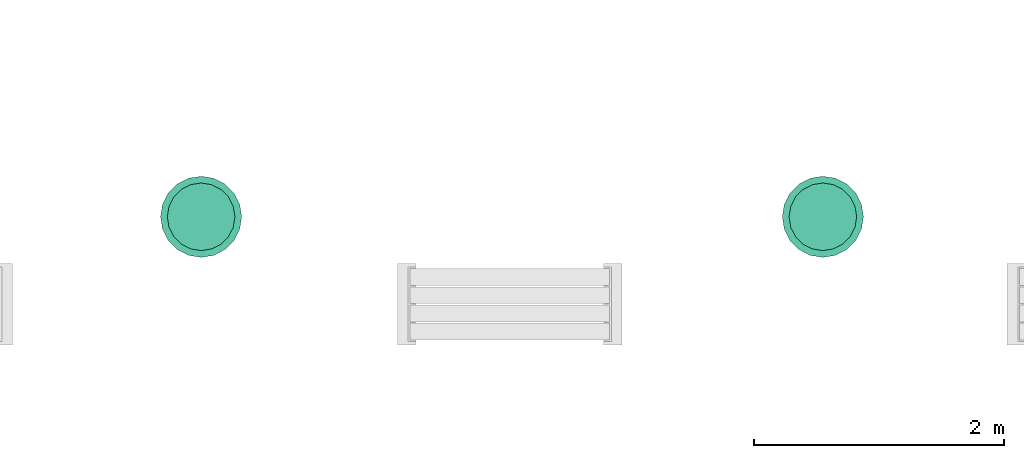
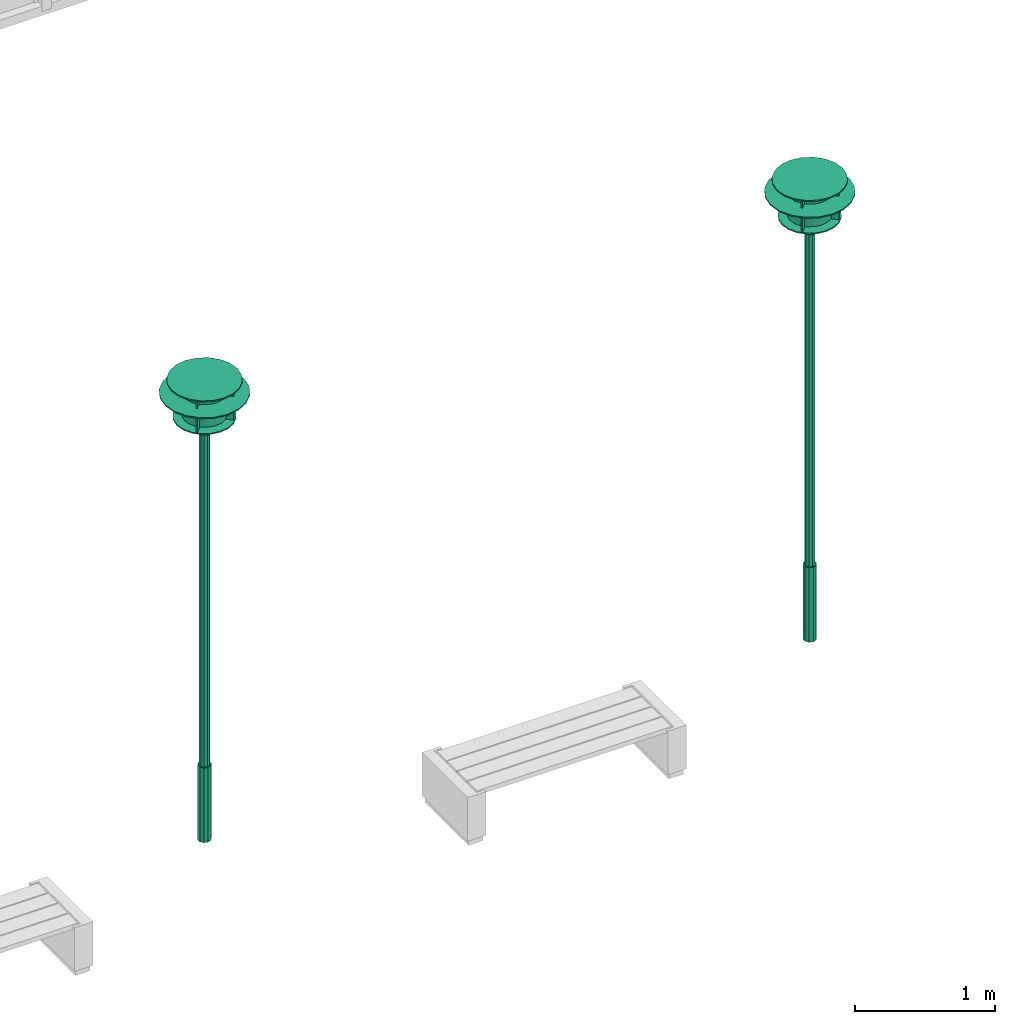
# One storey, part 3 of 8: 2 flow terminals.
"""IFC2X3 building model written with IfcOpenShell, lengths in millimetres."""

from ifc_helpers import new_model, entity, si_unit, converted_unit, derived_unit, direction, frame, frame_2d, origin, origin_2d_with_axis, place, context, subcontext, project, spatial, polyline, rectangle, outline, extrude, source, transform, mapped, material, material_list, type_object, type_shapes, element, save


model = new_model("IFC2X3")

# Units and contexts
model_context = context("Model", 3, precision=0.01, world=origin(), true_north=direction((6.12303176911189e-17, 1.0)))
body_context = subcontext(model_context, "Body", "Model", "MODEL_VIEW")
ifc_project = project(units=[si_unit("LENGTHUNIT", "METRE", prefix="MILLI"), si_unit("AREAUNIT", "SQUARE_METRE"), si_unit("VOLUMEUNIT", "CUBIC_METRE"), converted_unit("PLANEANGLEUNIT", "DEGREE", entity("IfcRatioMeasure", 0.0174532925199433), si_unit("PLANEANGLEUNIT", "RADIAN"), dimensions=[0, 0, 0, 0, 0, 0, 0]), si_unit("MASSUNIT", "GRAM", prefix="KILO"), derived_unit("MASSDENSITYUNIT", [(si_unit("MASSUNIT", "GRAM", prefix="KILO"), 1), (si_unit("LENGTHUNIT", "METRE"), -3)]), si_unit("TIMEUNIT", "SECOND"), si_unit("FREQUENCYUNIT", "HERTZ"), si_unit("THERMODYNAMICTEMPERATUREUNIT", "DEGREE_CELSIUS"), derived_unit("THERMALTRANSMITTANCEUNIT", [(si_unit("MASSUNIT", "GRAM", prefix="KILO"), 1), (si_unit("THERMODYNAMICTEMPERATUREUNIT", "KELVIN"), -1), (si_unit("TIMEUNIT", "SECOND"), -3)]), derived_unit("VOLUMETRICFLOWRATEUNIT", [(si_unit("LENGTHUNIT", "METRE"), 3), (si_unit("TIMEUNIT", "SECOND"), -1)]), si_unit("ELECTRICCURRENTUNIT", "AMPERE"), si_unit("ELECTRICVOLTAGEUNIT", "VOLT"), si_unit("POWERUNIT", "WATT"), si_unit("FORCEUNIT", "NEWTON", prefix="KILO"), si_unit("ILLUMINANCEUNIT", "LUX"), si_unit("LUMINOUSFLUXUNIT", "LUMEN"), si_unit("LUMINOUSINTENSITYUNIT", "CANDELA"), derived_unit("USERDEFINED", [(si_unit("MASSUNIT", "GRAM", prefix="KILO"), -1), (si_unit("LENGTHUNIT", "METRE"), -2), (si_unit("TIMEUNIT", "SECOND"), 3), (si_unit("LUMINOUSFLUXUNIT", "LUMEN"), 1)]), derived_unit("LINEARVELOCITYUNIT", [(si_unit("LENGTHUNIT", "METRE"), 1), (si_unit("TIMEUNIT", "SECOND"), -1)]), si_unit("PRESSUREUNIT", "PASCAL"), derived_unit("USERDEFINED", [(si_unit("LENGTHUNIT", "METRE"), -2), (si_unit("MASSUNIT", "GRAM", prefix="KILO"), 1), (si_unit("TIMEUNIT", "SECOND"), -2)])], contexts=[model_context])

# Site, building, storey
site_placement = place(None, origin())
site = spatial("IfcSite", under=ifc_project, at=site_placement, Name="Default", CompositionType="ELEMENT")
building_placement = place(site_placement, origin())
building = spatial("IfcBuilding", under=site, at=building_placement, CompositionType="ELEMENT")
storey_placement = place(building_placement, origin())
storey = spatial("IfcBuildingStorey", under=building, at=storey_placement, Name="Ground Floor", CompositionType="ELEMENT", Elevation=0.0)

# Flow terminals
ifc_material_1 = material(Name="Metal - Stainless Steel")
ifc_material_2 = material(Name="Glass - Satin")
ifc_material_list_1 = material_list([ifc_material_1, ifc_material_2])
ifc_material_list_2 = material_list([ifc_material_1, ifc_material_2])
light_fixture_type_1 = type_object("IfcLightFixtureType", Name="LI - 001", PredefinedType="NOTDEFINED", material=ifc_material_list_2)
shared_shape_1 = source(origin(), body_context, "Body", "SweptSolid", [
    extrude(outline(polyline([(-50.8412011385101, -320.998710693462), (50.841201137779, -320.998710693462), (147.546912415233, -289.57712036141), (229.809703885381, -229.809703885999), (289.577120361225, -147.546912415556), (320.998710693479, -50.8412011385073), (320.998710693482, 50.8412011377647), (289.577120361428, 147.546912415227), (229.809703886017, 229.809703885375), (147.546912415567, 289.577120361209), (50.8412011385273, 320.998710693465), (-50.8412011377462, 320.998710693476), (-147.546912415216, 289.577120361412), (-229.809703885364, 229.809703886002), (-289.577120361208, 147.546912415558), (-320.998710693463, 50.8412011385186), (-320.998710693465, -50.841201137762), (-289.577120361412, -147.546912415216), (-229.809703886, -229.809703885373), (-147.54691241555, -289.577120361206), (-50.8412011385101, -320.998710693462)]), holes=[polyline([(73.7734562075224, -144.78856018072), (25.4206005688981, -160.49935534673), (-25.4206005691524, -160.499355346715), (-73.7734562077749, -144.788560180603), (-114.904851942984, -114.904851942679), (-144.788560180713, -73.7734562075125), (-160.499355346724, -25.4206005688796), (-160.499355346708, 25.4206005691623), (-144.788560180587, 73.7734562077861), (-114.904851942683, 114.904851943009), (-73.7734562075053, 144.788560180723), (-25.4206005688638, 160.499355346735), (25.4206005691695, 160.499355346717), (73.7734562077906, 144.788560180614), (114.904851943, 114.904851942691), (144.78856018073, 73.7734562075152), (160.499355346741, 25.4206005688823), (160.499355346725, -25.4206005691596), (144.788560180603, -73.7734562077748), (114.904851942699, -114.904851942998), (73.7734562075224, -144.78856018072)])]), frame((90845.8677731, 57660.3691672, 3881.66666667), z_axis=(0.0, 0.0, 1.0), x_axis=(0.98768834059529, -0.15643446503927, 0.0)), (0.0, 0.0, 1.0), 9.99999999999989),
    extrude(outline(polyline([(-42.3676676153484, -267.498925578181), (42.3676676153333, -267.498925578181), (122.955760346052, -241.314266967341), (191.508086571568, -191.508086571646), (241.314266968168, -122.955760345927), (267.498925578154, -42.3676676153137), (267.49892557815, 42.3676676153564), (241.314266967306, 122.955760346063), (191.508086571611, 191.508086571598), (122.955760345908, 241.314266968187), (42.3676676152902, 267.498925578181), (-42.3676676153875, 267.498925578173), (-122.95576034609, 241.314266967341), (-191.508086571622, 191.508086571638), (-241.314266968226, 122.955760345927), (-267.498925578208, 42.3676676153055), (-267.498925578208, -42.3676676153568), (-241.314266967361, -122.955760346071), (-191.508086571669, -191.508086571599), (-122.955760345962, -241.314266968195), (-42.3676676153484, -267.498925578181)])), frame((90845.8677731, 57660.3691672, 3990.0), z_axis=(0.0, 0.0, 1.0), x_axis=(0.891006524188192, -0.453990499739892, 0.0)), (0.0, 0.0, 1.0), 9.99999999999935),
    extrude(outline(polyline([(-14.0791018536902, -88.8919506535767), (14.0791018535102, -88.8919506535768), (40.8591449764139, -80.1905871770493), (63.6396103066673, -63.639610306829), (80.1905871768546, -40.8591449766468), (88.8919506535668, -14.0791018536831), (88.8919506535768, 14.0791018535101), (80.1905871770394, 40.859144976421), (63.6396103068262, 63.6396103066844), (40.8591449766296, 80.1905871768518), (14.0791018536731, 88.891950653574), (-14.0791018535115, 88.8919506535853), (-40.859144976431, 80.1905871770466), (-63.6396103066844, 63.6396103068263), (-80.1905871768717, 40.8591449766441), (-88.8919506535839, 14.0791018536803), (-88.8919506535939, -14.0791018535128), (-80.1905871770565, -40.8591449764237), (-63.6396103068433, -63.6396103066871), (-40.8591449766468, -80.1905871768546), (-14.0791018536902, -88.8919506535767)]), holes=[polyline([(18.1596199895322, -35.6402609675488), (6.25737860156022, -39.5075336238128), (-6.25737860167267, -39.5075336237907), (-18.1596199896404, -35.6402609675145), (-28.2842712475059, -28.2842712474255), (-35.640260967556, -18.1596199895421), (-39.5075336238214, -6.25737860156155), (-39.5075336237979, 6.25737860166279), (-35.6402609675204, 18.159619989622), (-28.2842712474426, 28.2842712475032), (-18.1596199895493, 35.6402609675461), (-6.25737860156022, 39.5075336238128), (6.25737860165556, 39.507533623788), (18.159619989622, 35.6402609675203), (28.2842712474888, 28.2842712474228), (35.6402609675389, 18.1596199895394), (39.5075336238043, 6.25737860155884), (39.5075336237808, -6.2573786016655), (35.6402609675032, -18.1596199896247), (28.2842712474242, -28.2842712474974), (18.1596199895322, -35.6402609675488)])]), frame((90845.8677731, 57660.3691672, 3575.0), z_axis=(0.0, 0.0, 1.0), x_axis=(0.987688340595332, -0.156434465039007, 0.0)), (0.0, 0.0, 1.0), 9.99999999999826),
    extrude(outline(polyline([(-14.0791018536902, -88.8919506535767), (14.0791018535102, -88.8919506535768), (40.8591449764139, -80.1905871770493), (63.6396103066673, -63.639610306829), (80.1905871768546, -40.8591449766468), (88.8919506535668, -14.0791018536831), (88.8919506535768, 14.0791018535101), (80.1905871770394, 40.859144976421), (63.6396103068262, 63.6396103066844), (40.8591449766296, 80.1905871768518), (14.0791018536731, 88.891950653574), (-14.0791018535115, 88.8919506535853), (-40.859144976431, 80.1905871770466), (-63.6396103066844, 63.6396103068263), (-80.1905871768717, 40.8591449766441), (-88.8919506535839, 14.0791018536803), (-88.8919506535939, -14.0791018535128), (-80.1905871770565, -40.8591449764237), (-63.6396103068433, -63.6396103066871), (-40.8591449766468, -80.1905871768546), (-14.0791018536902, -88.8919506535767)]), holes=[polyline([(18.1596199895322, -35.6402609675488), (6.25737860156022, -39.5075336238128), (-6.25737860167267, -39.5075336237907), (-18.1596199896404, -35.6402609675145), (-28.2842712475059, -28.2842712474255), (-35.640260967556, -18.1596199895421), (-39.5075336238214, -6.25737860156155), (-39.5075336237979, 6.25737860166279), (-35.6402609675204, 18.159619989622), (-28.2842712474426, 28.2842712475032), (-18.1596199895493, 35.6402609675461), (-6.25737860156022, 39.5075336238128), (6.25737860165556, 39.507533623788), (18.159619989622, 35.6402609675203), (28.2842712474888, 28.2842712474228), (35.6402609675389, 18.1596199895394), (39.5075336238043, 6.25737860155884), (39.5075336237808, -6.2573786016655), (35.6402609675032, -18.1596199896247), (28.2842712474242, -28.2842712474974), (18.1596199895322, -35.6402609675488)])]), frame((90845.8677731, 57660.3691672, 3625.0), z_axis=(0.0, 0.0, 1.0), x_axis=(0.987688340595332, -0.156434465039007, 0.0)), (0.0, 0.0, 1.0), 9.99999999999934),
    extrude(outline(polyline([(-35.5888407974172, -224.699097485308), (35.5888407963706, -224.699097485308), (103.28283869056, -202.703984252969), (160.866792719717, -160.866792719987), (202.703984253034, -103.28283869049), (224.699097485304, -35.5888407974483), (224.699097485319, 35.5888407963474), (202.703984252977, 103.282838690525), (160.866792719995, 160.866792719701), (103.282838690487, 202.703984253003), (35.5888407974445, 224.699097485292), (-35.5888407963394, 224.699097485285), (-103.282838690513, 202.703984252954), (-160.866792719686, 160.866792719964), (-202.703984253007, 103.282838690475), (-224.699097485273, 35.5888407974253), (-224.699097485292, -35.5888407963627), (-202.703984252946, -103.282838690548), (-160.866792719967, -160.866792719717), (-103.282838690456, -202.703984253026), (-35.5888407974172, -224.699097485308)])), frame((90845.8677731, 57660.3691672, 3675.0), z_axis=(0.0, 0.0, 1.0), x_axis=(0.891006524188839, -0.453990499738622, 0.0)), (0.0, 0.0, 1.0), 10.0000000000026),
    extrude(outline(polyline([(-25.4206005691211, -160.499355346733), (25.4206005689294, -160.499355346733), (73.7734562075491, -144.788560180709), (114.904851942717, -114.904851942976), (144.788560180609, -73.7734562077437), (160.499355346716, -25.4206005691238), (160.499355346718, 25.4206005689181), (144.788560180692, 73.7734562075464), (114.90485194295, 114.904851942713), (73.7734562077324, 144.788560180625), (25.4206005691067, 160.499355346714), (-25.4206005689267, 160.499355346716), (-73.7734562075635, 144.78856018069), (-114.904851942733, 114.904851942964), (-144.788560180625, 73.7734562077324), (-160.499355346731, 25.420600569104), (-160.499355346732, -25.420600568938), (-144.788560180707, -73.7734562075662), (-114.904851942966, -114.904851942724), (-73.7734562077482, -144.788560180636), (-25.4206005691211, -160.499355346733)])), frame((90845.8677731, 57660.3691672, 3695.0), z_axis=(0.0, 0.0, 1.0), x_axis=(0.987688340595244, -0.156434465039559, 0.0)), (0.0, 0.0, 1.0), 284.999999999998),
    extrude(rectangle(XDim=10.0000000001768, YDim=54.1666666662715, at=origin_2d_with_axis()), frame((90711.8121125, 57526.3135066, 3891.66666667), z_axis=(0.0, 0.0, 1.0), x_axis=(-0.707106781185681, 0.707106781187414, 0.0)), (0.0, 0.0, 1.0), 98.3333333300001),
    extrude(rectangle(XDim=10.0000000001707, YDim=54.1666666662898, at=frame_2d((1.22506449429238e-11, -1.22515331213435e-11), x_axis=(1.0, 0.0))), frame((90711.8121125, 57794.4248278, 3891.66666667), z_axis=(0.0, 0.0, 1.0), x_axis=(0.707106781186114, 0.707106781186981, 0.0)), (0.0, 0.0, 1.0), 98.3333333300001),
    extrude(rectangle(XDim=10.0000000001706, YDim=54.1666666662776, at=frame_2d((1.83759674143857e-11, 6.12487838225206e-12), x_axis=(1.0, 0.0))), frame((90979.9234337, 57794.4248278, 3891.66666667), z_axis=(0.0, 0.0, 1.0), x_axis=(0.707106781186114, -0.707106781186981, 0.0)), (0.0, 0.0, 1.0), 98.3333333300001),
    extrude(rectangle(XDim=10.0000000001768, YDim=54.166666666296, at=frame_2d((1.22519772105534e-11, -1.22497567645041e-11), x_axis=(1.0, 0.0))), frame((90979.9234337, 57526.3135066, 3891.66666667), z_axis=(0.0, 0.0, 1.0), x_axis=(-0.707106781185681, -0.707106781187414, 0.0)), (0.0, 0.0, 1.0), 98.3333333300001),
    extrude(rectangle(XDim=10.0000000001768, YDim=54.1666666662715, at=origin_2d_with_axis()), frame((90711.8121125, 57526.3135066, 3685.0), z_axis=(0.0, 0.0, 1.0), x_axis=(-0.707106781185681, 0.707106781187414, 0.0)), (0.0, 0.0, 1.0), 196.66666667),
    extrude(rectangle(XDim=10.0000000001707, YDim=54.1666666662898, at=frame_2d((1.22506449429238e-11, -1.22515331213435e-11), x_axis=(1.0, 0.0))), frame((90711.8121125, 57794.4248278, 3685.0), z_axis=(0.0, 0.0, 1.0), x_axis=(0.707106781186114, 0.707106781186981, 0.0)), (0.0, 0.0, 1.0), 196.66666667),
    extrude(rectangle(XDim=10.0000000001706, YDim=54.1666666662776, at=frame_2d((1.83759674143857e-11, 6.12487838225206e-12), x_axis=(1.0, 0.0))), frame((90979.9234337, 57794.4248278, 3685.0), z_axis=(0.0, 0.0, 1.0), x_axis=(0.707106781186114, -0.707106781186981, 0.0)), (0.0, 0.0, 1.0), 196.66666667),
    extrude(rectangle(XDim=10.0000000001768, YDim=54.166666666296, at=frame_2d((1.22519772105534e-11, -1.22497567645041e-11), x_axis=(1.0, 0.0))), frame((90979.9234337, 57526.3135066, 3685.0), z_axis=(0.0, 0.0, 1.0), x_axis=(-0.707106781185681, -0.707106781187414, 0.0)), (0.0, 0.0, 1.0), 196.66666667),
    extrude(outline(polyline([(-12.3606797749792, -38.0422606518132), (12.3606797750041, -38.0422606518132), (32.3606797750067, -23.5114100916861), (40.0, 0.0), (32.360679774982, 23.5114100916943), (12.360679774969, 38.0422606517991), (-12.3606797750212, 38.0422606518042), (-32.3606797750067, 23.5114100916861), (-40.0, 0.0), (-32.3606797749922, -23.5114100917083), (-12.3606797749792, -38.0422606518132)])), frame((90845.8677731, 57660.3691672, 3350.0), z_axis=(0.0, 0.0, 1.0), x_axis=(0.58778525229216, -0.809016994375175, 0.0)), (0.0, 0.0, 1.0), 325.0),
    extrude(outline(polyline([(-12.3606797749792, -38.0422606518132), (12.3606797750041, -38.0422606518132), (32.3606797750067, -23.5114100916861), (40.0, 0.0), (32.360679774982, 23.5114100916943), (12.360679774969, 38.0422606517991), (-12.3606797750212, 38.0422606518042), (-32.3606797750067, 23.5114100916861), (-40.0, 0.0), (-32.3606797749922, -23.5114100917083), (-12.3606797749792, -38.0422606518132)])), frame((90845.8677731, 57660.3691672, 650.0), z_axis=(0.0, 0.0, 1.0), x_axis=(0.58778525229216, -0.809016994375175, 0.0)), (0.0, 0.0, 1.0), 2700.0),
    extrude(outline(polyline([(-15.4508497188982, -47.5528258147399), (15.4508497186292, -47.5528258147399), (40.4508497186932, -29.3892626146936), (50.0, 0.0), (40.4508497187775, 29.3892626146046), (15.450849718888, 47.5528258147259), (-15.4508497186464, 47.552825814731), (-40.4508497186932, 29.3892626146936), (-50.0, 0.0), (-40.4508497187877, -29.3892626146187), (-15.4508497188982, -47.5528258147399)])), frame((90845.8677731, 57660.3691672, 0.0), z_axis=(0.0, 0.0, 1.0), x_axis=(0.587785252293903, -0.809016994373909, 0.0)), (0.0, 0.0, 1.0), 650.0),
])
type_shapes(light_fixture_type_1, [shared_shape_1])
flow_terminal_1_placement = place(storey_placement, origin())
element("IfcFlowTerminal", 1, at=flow_terminal_1_placement, inside=storey, type_object=light_fixture_type_1, material=ifc_material_list_1, Name="LI - 001 1770043:LI - 001 1770043", ObjectType="LI - 001 1770043:LI - 001 1770043", context=body_context, shape_type="MappedRepresentation", body=[
    mapped(shared_shape_1, transform((0.0, 0.0, 0.0), scale=1.0)),
])
ifc_material_list_3 = material_list([ifc_material_1, ifc_material_2])
ifc_material_list_4 = material_list([ifc_material_1, ifc_material_2])
light_fixture_type_2 = type_object("IfcLightFixtureType", Name="LI - 001", PredefinedType="NOTDEFINED", material=ifc_material_list_4)
shared_shape_2 = source(origin(), body_context, "Body", "SweptSolid", [
    extrude(outline(polyline([(-50.8412011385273, -320.998710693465), (50.8412011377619, -320.998710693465), (147.546912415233, -289.57712036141), (229.809703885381, -229.809703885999), (289.577120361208, -147.546912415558), (320.998710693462, -50.8412011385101), (320.998710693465, 50.841201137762), (289.577120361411, 147.546912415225), (229.809703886, 229.809703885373), (147.546912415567, 289.577120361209), (50.8412011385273, 320.998710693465), (-50.8412011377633, 320.998710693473), (-147.546912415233, 289.57712036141), (-229.809703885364, 229.809703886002), (-289.577120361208, 147.546912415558), (-320.998710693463, 50.8412011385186), (-320.998710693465, -50.841201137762), (-289.577120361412, -147.546912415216), (-229.809703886, -229.809703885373), (-147.54691241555, -289.577120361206), (-50.8412011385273, -320.998710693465)]), holes=[polyline([(73.7734562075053, -144.788560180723), (25.420600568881, -160.499355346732), (-25.4206005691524, -160.499355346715), (-73.7734562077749, -144.788560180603), (-114.904851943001, -114.904851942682), (-144.78856018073, -73.7734562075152), (-160.499355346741, -25.4206005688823), (-160.499355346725, 25.4206005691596), (-144.788560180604, 73.7734562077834), (-114.904851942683, 114.904851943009), (-73.7734562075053, 144.788560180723), (-25.420600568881, 160.499355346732), (25.4206005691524, 160.499355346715), (73.7734562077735, 144.788560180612), (114.904851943, 114.904851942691), (144.78856018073, 73.7734562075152), (160.499355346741, 25.4206005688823), (160.499355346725, -25.4206005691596), (144.788560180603, -73.7734562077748), (114.904851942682, -114.904851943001), (73.7734562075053, -144.788560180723)])]), frame((85863.7107494, 57660.3691672, 3881.66666667), z_axis=(0.0, 0.0, 1.0), x_axis=(0.98768834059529, -0.15643446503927, 0.0)), (0.0, 0.0, 1.0), 9.99999999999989),
    extrude(outline(polyline([(-42.3676676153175, -267.498925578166), (42.3676676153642, -267.498925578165), (122.955760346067, -241.314266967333), (191.508086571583, -191.508086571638), (241.314266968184, -122.955760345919), (267.498925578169, -42.3676676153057), (267.498925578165, 42.3676676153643), (241.314266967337, 122.955760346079), (191.508086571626, 191.508086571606), (122.955760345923, 241.314266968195), (42.3676676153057, 267.498925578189), (-42.3676676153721, 267.498925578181), (-122.955760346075, 241.314266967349), (-191.508086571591, 191.508086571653), (-241.314266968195, 122.955760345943), (-267.498925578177, 42.3676676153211), (-267.498925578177, -42.3676676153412), (-241.31426696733, -122.955760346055), (-191.508086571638, -191.508086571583), (-122.955760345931, -241.31426696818), (-42.3676676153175, -267.498925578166)])), frame((85863.7107494, 57660.3691672, 3990.0), z_axis=(0.0, 0.0, 1.0), x_axis=(0.891006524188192, -0.453990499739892, 0.0)), (0.0, 0.0, 1.0), 9.99999999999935),
    extrude(outline(polyline([(-14.0791018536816, -88.8919506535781), (14.0791018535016, -88.8919506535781), (40.8591449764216, -80.1905871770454), (63.6396103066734, -63.6396103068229), (80.1905871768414, -40.8591449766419), (88.8919506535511, -14.0791018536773), (88.8919506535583, 14.0791018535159), (80.1905871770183, 40.859144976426), (63.639610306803, 63.6396103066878), (40.8591449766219, 80.1905871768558), (14.0791018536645, 88.8919506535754), (-14.0791018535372, 88.8919506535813), (-40.8591449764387, 80.1905871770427), (-63.6396103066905, 63.6396103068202), (-80.1905871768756, 40.8591449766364), (-88.8919506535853, 14.0791018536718), (-88.8919506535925, -14.0791018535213), (-80.1905871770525, -40.8591449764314), (-63.6396103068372, -63.6396103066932), (-40.859144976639, -80.1905871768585), (-14.0791018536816, -88.8919506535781)]), holes=[polyline([(18.1596199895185, -35.6402609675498), (6.25737860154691, -39.507533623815), (-6.25737860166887, -39.5075336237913), (-18.159619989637, -35.6402609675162), (-28.2842712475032, -28.2842712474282), (-35.6402609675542, -18.1596199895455), (-39.5075336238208, -6.25737860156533), (-39.5075336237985, 6.25737860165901), (-35.6402609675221, 18.1596199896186), (-28.2842712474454, 28.2842712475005), (-18.1596199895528, 35.6402609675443), (-6.25737860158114, 39.5075336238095), (6.25737860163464, 39.5075336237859), (18.1596199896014, 35.6402609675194), (28.2842712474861, 28.2842712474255), (35.6402609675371, 18.1596199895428), (39.5075336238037, 6.25737860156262), (39.5075336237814, -6.25737860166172), (35.640260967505, -18.1596199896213), (28.2842712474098, -28.2842712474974), (18.1596199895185, -35.6402609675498)])]), frame((85863.7107494, 57660.3691672, 3575.0), z_axis=(0.0, 0.0, 1.0), x_axis=(0.987688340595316, -0.156434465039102, 0.0)), (0.0, 0.0, 1.0), 9.99999999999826),
    extrude(outline(polyline([(-14.0791018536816, -88.8919506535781), (14.0791018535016, -88.8919506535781), (40.8591449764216, -80.1905871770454), (63.6396103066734, -63.6396103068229), (80.1905871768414, -40.8591449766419), (88.8919506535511, -14.0791018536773), (88.8919506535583, 14.0791018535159), (80.1905871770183, 40.859144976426), (63.639610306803, 63.6396103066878), (40.8591449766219, 80.1905871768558), (14.0791018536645, 88.8919506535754), (-14.0791018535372, 88.8919506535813), (-40.8591449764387, 80.1905871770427), (-63.6396103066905, 63.6396103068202), (-80.1905871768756, 40.8591449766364), (-88.8919506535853, 14.0791018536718), (-88.8919506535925, -14.0791018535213), (-80.1905871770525, -40.8591449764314), (-63.6396103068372, -63.6396103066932), (-40.859144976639, -80.1905871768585), (-14.0791018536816, -88.8919506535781)]), holes=[polyline([(18.1596199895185, -35.6402609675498), (6.25737860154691, -39.507533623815), (-6.25737860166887, -39.5075336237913), (-18.159619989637, -35.6402609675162), (-28.2842712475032, -28.2842712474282), (-35.6402609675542, -18.1596199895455), (-39.5075336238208, -6.25737860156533), (-39.5075336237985, 6.25737860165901), (-35.6402609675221, 18.1596199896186), (-28.2842712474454, 28.2842712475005), (-18.1596199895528, 35.6402609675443), (-6.25737860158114, 39.5075336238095), (6.25737860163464, 39.5075336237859), (18.1596199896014, 35.6402609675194), (28.2842712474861, 28.2842712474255), (35.6402609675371, 18.1596199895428), (39.5075336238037, 6.25737860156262), (39.5075336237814, -6.25737860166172), (35.640260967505, -18.1596199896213), (28.2842712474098, -28.2842712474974), (18.1596199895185, -35.6402609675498)])]), frame((85863.7107494, 57660.3691672, 3625.0), z_axis=(0.0, 0.0, 1.0), x_axis=(0.987688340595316, -0.156434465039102, 0.0)), (0.0, 0.0, 1.0), 9.99999999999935),
    extrude(outline(polyline([(-35.5888407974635, -224.699097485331), (35.5888407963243, -224.699097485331), (103.282838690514, -202.703984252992), (160.866792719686, -160.866792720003), (202.703984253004, -103.282838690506), (224.699097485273, -35.5888407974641), (224.699097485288, 35.5888407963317), (202.703984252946, 103.282838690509), (160.866792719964, 160.866792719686), (103.282838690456, 202.703984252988), (35.5888407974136, 224.699097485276), (-35.5888407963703, 224.699097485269), (-103.28283869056, 202.70398425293), (-160.866792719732, 160.86679271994), (-202.703984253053, 103.282838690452), (-224.699097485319, 35.5888407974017), (-224.699097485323, -35.5888407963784), (-202.703984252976, -103.282838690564), (-160.866792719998, -160.866792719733), (-103.282838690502, -202.70398425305), (-35.5888407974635, -224.699097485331)])), frame((85863.7107494, 57660.3691672, 3675.0), z_axis=(0.0, 0.0, 1.0), x_axis=(0.891006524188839, -0.453990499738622, 0.0)), (0.0, 0.0, 1.0), 10.0000000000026),
    extrude(outline(polyline([(-25.4206005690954, -160.499355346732), (25.4206005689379, -160.499355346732), (73.7734562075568, -144.788560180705), (114.904851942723, -114.90485194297), (144.78856018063, -73.7734562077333), (160.499355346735, -25.4206005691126), (160.499355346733, 25.4206005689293), (144.788560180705, 73.7734562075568), (114.904851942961, 114.904851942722), (73.7734562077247, 144.788560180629), (25.4206005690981, 160.499355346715), (-25.4206005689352, 160.499355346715), (-73.7734562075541, 144.788560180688), (-114.904851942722, 114.904851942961), (-144.788560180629, 73.7734562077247), (-160.499355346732, 25.4206005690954), (-160.499355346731, -25.4206005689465), (-144.788560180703, -73.7734562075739), (-114.90485194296, -114.90485194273), (-73.7734562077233, -144.788560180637), (-25.4206005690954, -160.499355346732)])), frame((85863.7107494, 57660.3691672, 3695.0), z_axis=(0.0, 0.0, 1.0), x_axis=(0.987688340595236, -0.156434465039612, 0.0)), (0.0, 0.0, 1.0), 284.999999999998),
    extrude(rectangle(XDim=10.000000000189, YDim=54.1666666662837, at=frame_2d((-1.22510890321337e-11, -1.22515331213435e-11), x_axis=(1.0, 0.0))), frame((85729.6550888, 57526.3135066, 3891.66666667), z_axis=(0.0, 0.0, 1.0), x_axis=(-0.707106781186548, 0.707106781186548, 0.0)), (0.0, 0.0, 1.0), 98.3333333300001),
    extrude(rectangle(XDim=10.0000000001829, YDim=54.1666666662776, at=origin_2d_with_axis()), frame((85729.6550888, 57794.4248278, 3891.66666667), z_axis=(0.0, 0.0, 1.0), x_axis=(0.707106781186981, 0.707106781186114, 0.0)), (0.0, 0.0, 1.0), 98.3333333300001),
    extrude(rectangle(XDim=10.0000000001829, YDim=54.1666666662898, at=frame_2d((6.12576656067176e-12, -6.12487838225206e-12), x_axis=(1.0, 0.0))), frame((85997.76641, 57794.4248278, 3891.66666667), z_axis=(0.0, 0.0, 1.0), x_axis=(0.707106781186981, -0.707106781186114, 0.0)), (0.0, 0.0, 1.0), 98.3333333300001),
    extrude(rectangle(XDim=10.000000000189, YDim=54.1666666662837, at=origin_2d_with_axis()), frame((85997.76641, 57526.3135066, 3891.66666667), z_axis=(0.0, 0.0, 1.0), x_axis=(-0.707106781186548, -0.707106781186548, 0.0)), (0.0, 0.0, 1.0), 98.3333333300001),
    extrude(rectangle(XDim=10.000000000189, YDim=54.1666666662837, at=frame_2d((-1.22510890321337e-11, -1.22515331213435e-11), x_axis=(1.0, 0.0))), frame((85729.6550888, 57526.3135066, 3685.0), z_axis=(0.0, 0.0, 1.0), x_axis=(-0.707106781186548, 0.707106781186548, 0.0)), (0.0, 0.0, 1.0), 196.66666667),
    extrude(rectangle(XDim=10.0000000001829, YDim=54.1666666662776, at=origin_2d_with_axis()), frame((85729.6550888, 57794.4248278, 3685.0), z_axis=(0.0, 0.0, 1.0), x_axis=(0.707106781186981, 0.707106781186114, 0.0)), (0.0, 0.0, 1.0), 196.66666667),
    extrude(rectangle(XDim=10.0000000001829, YDim=54.1666666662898, at=frame_2d((6.12576656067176e-12, -6.12487838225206e-12), x_axis=(1.0, 0.0))), frame((85997.76641, 57794.4248278, 3685.0), z_axis=(0.0, 0.0, 1.0), x_axis=(0.707106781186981, -0.707106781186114, 0.0)), (0.0, 0.0, 1.0), 196.66666667),
    extrude(rectangle(XDim=10.000000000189, YDim=54.1666666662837, at=origin_2d_with_axis()), frame((85997.76641, 57526.3135066, 3685.0), z_axis=(0.0, 0.0, 1.0), x_axis=(-0.707106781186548, -0.707106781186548, 0.0)), (0.0, 0.0, 1.0), 196.66666667),
    extrude(outline(polyline([(-12.360679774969, -38.0422606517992), (12.3606797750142, -38.0422606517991), (32.3606797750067, -23.5114100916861), (40.0, 0.0), (32.3606797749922, 23.5114100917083), (12.3606797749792, 38.0422606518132), (-12.3606797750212, 38.0422606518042), (-32.3606797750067, 23.5114100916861), (-40.0, 0.0), (-32.360679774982, -23.5114100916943), (-12.360679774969, -38.0422606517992)])), frame((85863.7107494, 57660.3691672, 3350.0), z_axis=(0.0, 0.0, 1.0), x_axis=(0.58778525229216, -0.809016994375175, 0.0)), (0.0, 0.0, 1.0), 325.0),
    extrude(outline(polyline([(-12.360679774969, -38.0422606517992), (12.3606797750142, -38.0422606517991), (32.3606797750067, -23.5114100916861), (40.0, 0.0), (32.3606797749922, 23.5114100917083), (12.3606797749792, 38.0422606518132), (-12.3606797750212, 38.0422606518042), (-32.3606797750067, 23.5114100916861), (-40.0, 0.0), (-32.360679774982, -23.5114100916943), (-12.360679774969, -38.0422606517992)])), frame((85863.7107494, 57660.3691672, 650.0), z_axis=(0.0, 0.0, 1.0), x_axis=(0.58778525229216, -0.809016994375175, 0.0)), (0.0, 0.0, 1.0), 2700.0),
    extrude(outline(polyline([(-15.450849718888, -47.5528258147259), (15.4508497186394, -47.5528258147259), (40.4508497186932, -29.3892626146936), (50.0, 0.0), (40.4508497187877, 29.3892626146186), (15.4508497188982, 47.5528258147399), (-15.4508497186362, 47.552825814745), (-40.4508497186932, 29.3892626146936), (-50.0, 0.0), (-40.4508497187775, -29.3892626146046), (-15.450849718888, -47.5528258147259)])), frame((85863.7107494, 57660.3691672, 0.0), z_axis=(0.0, 0.0, 1.0), x_axis=(0.587785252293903, -0.809016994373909, 0.0)), (0.0, 0.0, 1.0), 650.0),
])
type_shapes(light_fixture_type_2, [shared_shape_2])
flow_terminal_2_placement = place(storey_placement, origin())
element("IfcFlowTerminal", 2, at=flow_terminal_2_placement, inside=storey, type_object=light_fixture_type_2, material=ifc_material_list_3, Name="LI - 001 1796179:LI - 001 1796179", ObjectType="LI - 001 1796179:LI - 001 1796179", context=body_context, shape_type="MappedRepresentation", body=[
    mapped(shared_shape_2, transform((0.0, 0.0, 0.0), scale=1.0)),
])

save(model, "model.ifc")
